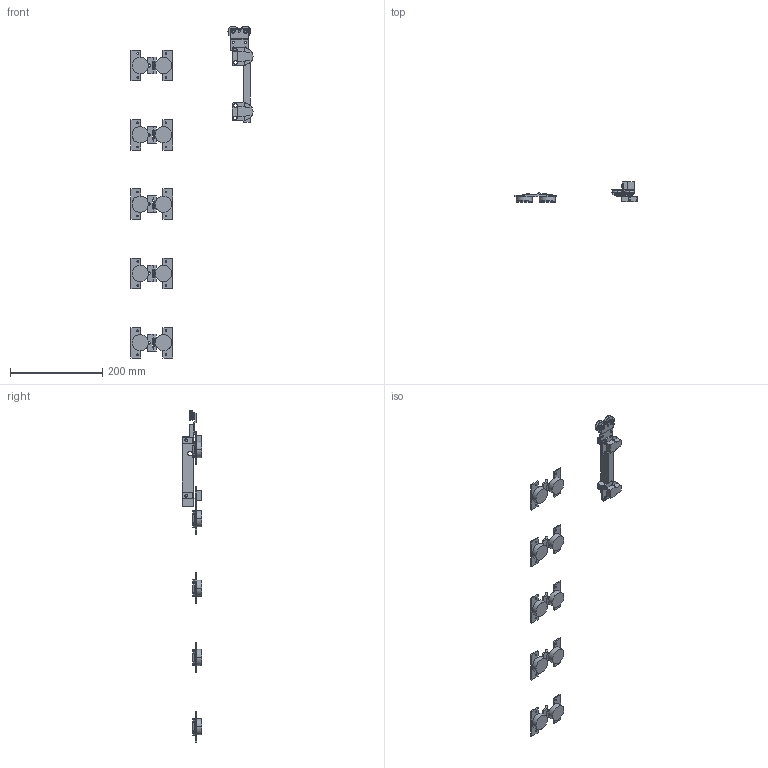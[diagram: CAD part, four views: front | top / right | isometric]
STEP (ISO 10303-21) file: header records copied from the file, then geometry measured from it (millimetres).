
FILE_DESCRIPTION( ( '' ), '1' );
FILE_NAME( '//10.120.51.241/design/Data Transfer/sunil/10083.stp', '2013-09-20T06:19:55', ( '' ), ( '' ), ' ', ' ', ' ' );
FILE_SCHEMA( ( 'automotive_design' ) );
Length unit declared in the file: millimetre
Products named in the file (6): 1; 2; 3; 4; 5; 6
Bounding box: 264.3 x 42.63 x 718.5 mm (x, y, z)
Volume: 181126.3 mm3; surface area: 122243.9 mm2
Topology: 6 solids, 6 shells, 774 faces, 2363 edges, 1514 vertices
Faces by surface type: plane 488, cylinder 278, torus 8
Entity records: 52581 total; most frequent: CARTESIAN_POINT 4727, ORIENTED_EDGE 4726, DIRECTION 4721, STYLED_ITEM 4657, PRESENTATION_STYLE_ASSIGNMENT 4657, COLOUR_RGB 4657, EDGE_CURVE 2363, CURVE_STYLE 2363
